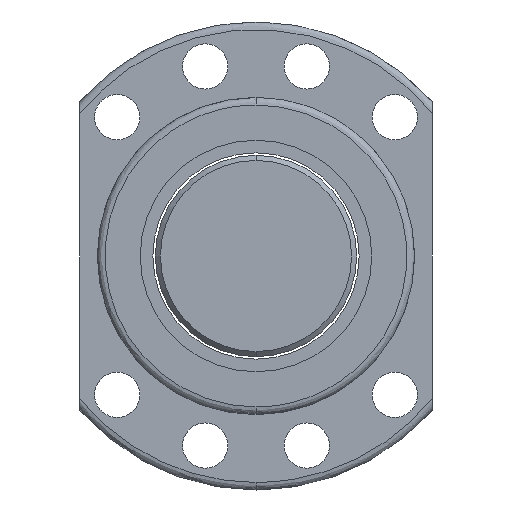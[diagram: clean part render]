
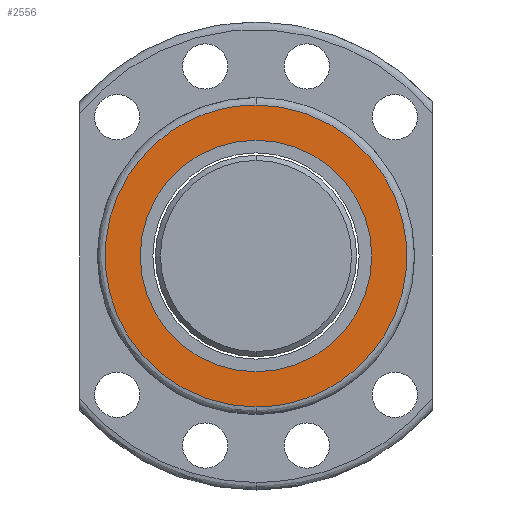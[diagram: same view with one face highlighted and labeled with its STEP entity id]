
A CAD part, left-side view. The second image highlights one B-rep face of the part: STEP entity #2556.
In plain terms, the highlighted planar face has unit normal (-1, 0, 0).
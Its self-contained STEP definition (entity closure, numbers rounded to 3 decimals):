
#1290 =( BOUNDED_CURVE ( )  B_SPLINE_CURVE ( 3, ( #1327, #1326, #1325, #1324 ),
 .UNSPECIFIED., .F., .T. ) 
 B_SPLINE_CURVE_WITH_KNOTS ( ( 4, 4 ),
 ( 0., 0.5 ),
 .UNSPECIFIED. ) 
 CURVE ( )  GEOMETRIC_REPRESENTATION_ITEM ( )  RATIONAL_B_SPLINE_CURVE ( ( 1., 0.333, 0.333, 1. ) ) 
 REPRESENTATION_ITEM ( '' )  );
#1318 = DIRECTION ( 'NONE',  ( 0., 0., -1. ) ) ;
#1319 = DIRECTION ( 'NONE',  ( -1., 0., 0. ) ) ;
#1320 = AXIS2_PLACEMENT_3D ( 'NONE', #1322, #1319, #1318 ) ;
#1321 = CIRCLE ( 'NONE', #1320, 23. ) ;
#1322 = CARTESIAN_POINT ( 'NONE',  ( -120., 0., 0. ) ) ;
#1324 = CARTESIAN_POINT ( 'NONE',  ( -120., 0., 30. ) ) ;
#1325 = CARTESIAN_POINT ( 'NONE',  ( -120., 60., 30. ) ) ;
#1326 = CARTESIAN_POINT ( 'NONE',  ( -120., 60., -30. ) ) ;
#1327 = CARTESIAN_POINT ( 'NONE',  ( -120., 0., -30. ) ) ;
#1329 = CARTESIAN_POINT ( 'NONE',  ( -120., 26.5, 0. ) ) ;
#1330 = AXIS2_PLACEMENT_3D ( 'NONE', #1329, #1391, #1390 ) ;
#1351 = FACE_BOUND ( 'NONE', #2547, .T. ) ;
#1357 = PLANE ( 'NONE',  #1330 ) ;
#1358 = FACE_OUTER_BOUND ( 'NONE', #2526, .T. ) ;
#1390 = DIRECTION ( 'NONE',  ( 0., 0., -1. ) ) ;
#1391 = DIRECTION ( 'NONE',  ( 1., 0., 0. ) ) ;
#1688 = CARTESIAN_POINT ( 'NONE',  ( -120., 0., -30. ) ) ;
#1699 = CARTESIAN_POINT ( 'NONE',  ( -120., 0., 30. ) ) ;
#1717 = CARTESIAN_POINT ( 'NONE',  ( -120., 0., -30. ) ) ;
#1718 = CARTESIAN_POINT ( 'NONE',  ( -120., -60., -30. ) ) ;
#1719 = CARTESIAN_POINT ( 'NONE',  ( -120., -60., 30. ) ) ;
#1720 = CARTESIAN_POINT ( 'NONE',  ( -120., 0., 30. ) ) ;
#1721 =( BOUNDED_CURVE ( )  B_SPLINE_CURVE ( 3, ( #1720, #1719, #1718, #1717 ),
 .UNSPECIFIED., .F., .T. ) 
 B_SPLINE_CURVE_WITH_KNOTS ( ( 4, 4 ),
 ( 0.5, 1. ),
 .UNSPECIFIED. ) 
 CURVE ( )  GEOMETRIC_REPRESENTATION_ITEM ( )  RATIONAL_B_SPLINE_CURVE ( ( 1., 0.333, 0.333, 1. ) ) 
 REPRESENTATION_ITEM ( '' )  );
#1853 = DIRECTION ( 'NONE',  ( 0., 0., -1. ) ) ;
#1854 = DIRECTION ( 'NONE',  ( -1., 0., 0. ) ) ;
#1855 = CARTESIAN_POINT ( 'NONE',  ( -120., 0., 0. ) ) ;
#1856 = AXIS2_PLACEMENT_3D ( 'NONE', #1855, #1854, #1853 ) ;
#1857 = CIRCLE ( 'NONE', #1856, 23. ) ;
#1872 = CARTESIAN_POINT ( 'NONE',  ( -120., 0., 23. ) ) ;
#1894 = CARTESIAN_POINT ( 'NONE',  ( -120., 0., -23. ) ) ;
#2526 = EDGE_LOOP ( 'NONE', ( #2528, #2830 ) ) ;
#2528 = ORIENTED_EDGE ( 'NONE', *, *, #2531, .F. ) ;
#2531 = EDGE_CURVE ( 'NONE', #2709, #2707, #1290, .T. ) ;
#2544 = EDGE_CURVE ( 'NONE', #2760, #2778, #1321, .T. ) ;
#2547 = EDGE_LOOP ( 'NONE', ( #2553, #2549 ) ) ;
#2549 = ORIENTED_EDGE ( 'NONE', *, *, #2544, .F. ) ;
#2553 = ORIENTED_EDGE ( 'NONE', *, *, #2768, .F. ) ;
#2556 = ADVANCED_FACE ( 'NONE', ( #1351, #1358 ), #1357, .F. ) ;
#2707 = VERTEX_POINT ( 'NONE', #1699 ) ;
#2709 = VERTEX_POINT ( 'NONE', #1688 ) ;
#2711 = EDGE_CURVE ( 'NONE', #2707, #2709, #1721, .T. ) ;
#2760 = VERTEX_POINT ( 'NONE', #1872 ) ;
#2768 = EDGE_CURVE ( 'NONE', #2778, #2760, #1857, .T. ) ;
#2778 = VERTEX_POINT ( 'NONE', #1894 ) ;
#2830 = ORIENTED_EDGE ( 'NONE', *, *, #2711, .F. ) ;
